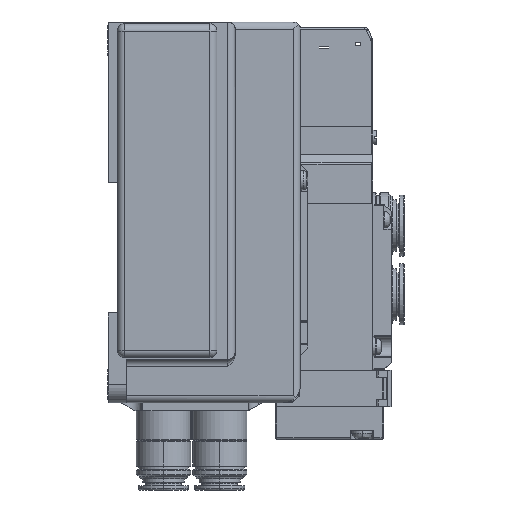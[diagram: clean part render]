
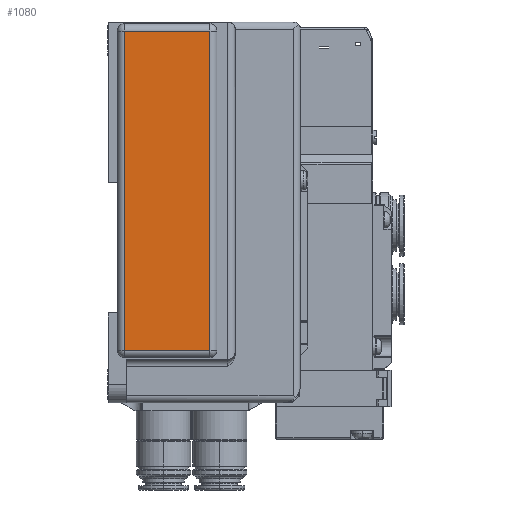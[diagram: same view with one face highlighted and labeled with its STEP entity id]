
A CAD part, left-side view. The second image highlights one B-rep face of the part: STEP entity #1080.
In plain terms, the highlighted planar face has unit normal (-1, 0, 0).
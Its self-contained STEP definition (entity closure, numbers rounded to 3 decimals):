
#1080=ADVANCED_FACE('',(#4309),#4308,.T.);
#4308=PLANE('',#10214);
#4309=FACE_OUTER_BOUND('',#10215,.T.);
#10211=CARTESIAN_POINT('',(-3.,-35.35,-37.1));
#10212=DIRECTION('',(-1.,0.,0.));
#10213=DIRECTION('',(0.,0.,1.));
#10214=AXIS2_PLACEMENT_3D('',#10211,#10212,#10213);
#10215=EDGE_LOOP('',(#22419,#22420,#22421,#22422));
#22419=ORIENTED_EDGE('',*,*,#29308,.T.);
#22420=ORIENTED_EDGE('',*,*,#29309,.T.);
#22421=ORIENTED_EDGE('',*,*,#29310,.T.);
#22422=ORIENTED_EDGE('',*,*,#29311,.T.);
#29308=EDGE_CURVE('',#38999,#39000,#39001,.T.);
#29309=EDGE_CURVE('',#39000,#38890,#39007,.T.);
#29310=EDGE_CURVE('',#38890,#39013,#39014,.T.);
#29311=EDGE_CURVE('',#39013,#38999,#39020,.T.);
#38890=VERTEX_POINT('',#49290);
#38999=VERTEX_POINT('',#49353);
#39000=VERTEX_POINT('',#49354);
#39001=LINE('',#49355,#49356);
#39007=LINE('',#49358,#49359);
#39013=VERTEX_POINT('',#49361);
#39014=LINE('',#49362,#49363);
#39020=LINE('',#49365,#49366);
#49290=CARTESIAN_POINT('',(-3.,-33.,-28.3));
#49353=CARTESIAN_POINT('',(-3.,-9.5,59.7));
#49354=CARTESIAN_POINT('',(-3.,-9.5,-28.3));
#49355=CARTESIAN_POINT('',(-3.,-9.5,59.7));
#49356=VECTOR('',#49357,88.);
#49357=DIRECTION('',(0.,0.,-1.));
#49358=CARTESIAN_POINT('',(-3.,-9.5,-28.3));
#49359=VECTOR('',#49360,23.5);
#49360=DIRECTION('',(0.,-1.,0.));
#49361=CARTESIAN_POINT('',(-3.,-33.,59.7));
#49362=CARTESIAN_POINT('',(-3.,-33.,-28.3));
#49363=VECTOR('',#49364,88.);
#49364=DIRECTION('',(0.,0.,1.));
#49365=CARTESIAN_POINT('',(-3.,-33.,59.7));
#49366=VECTOR('',#49367,23.5);
#49367=DIRECTION('',(0.,1.,0.));
